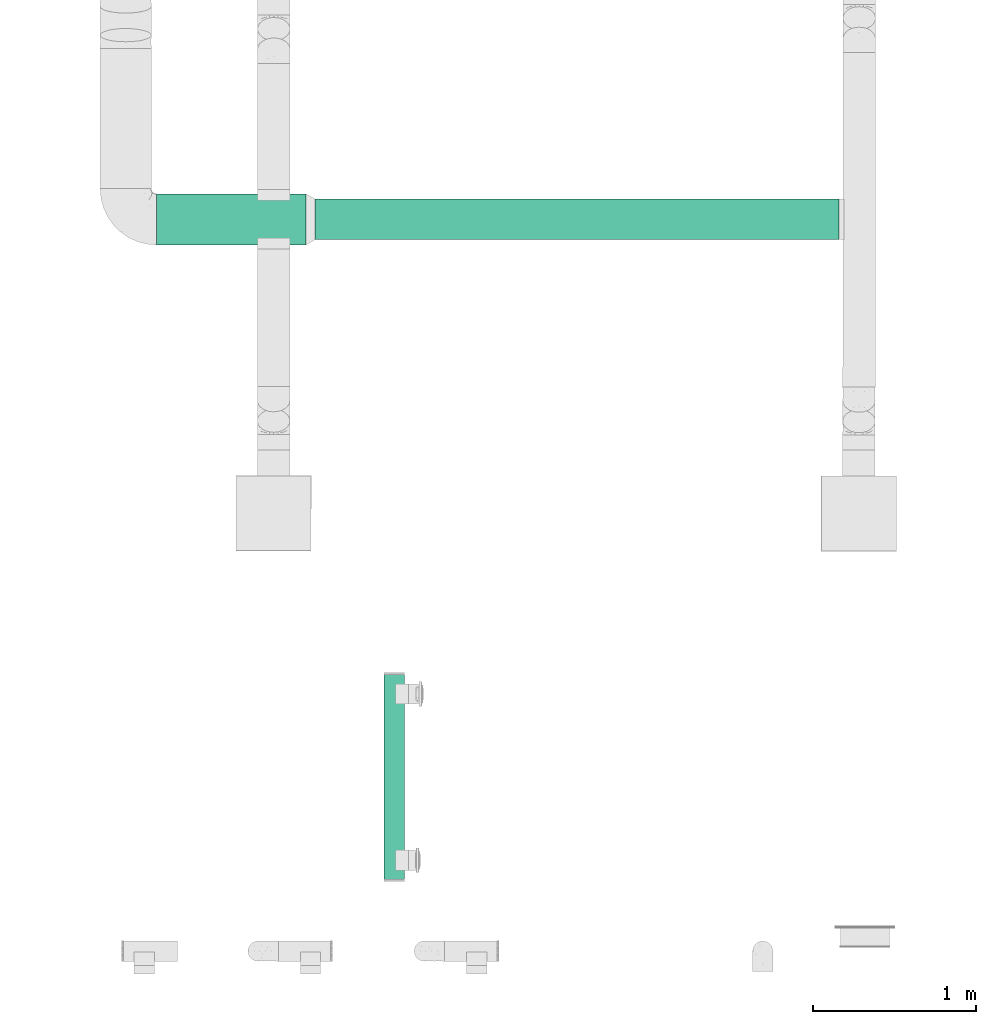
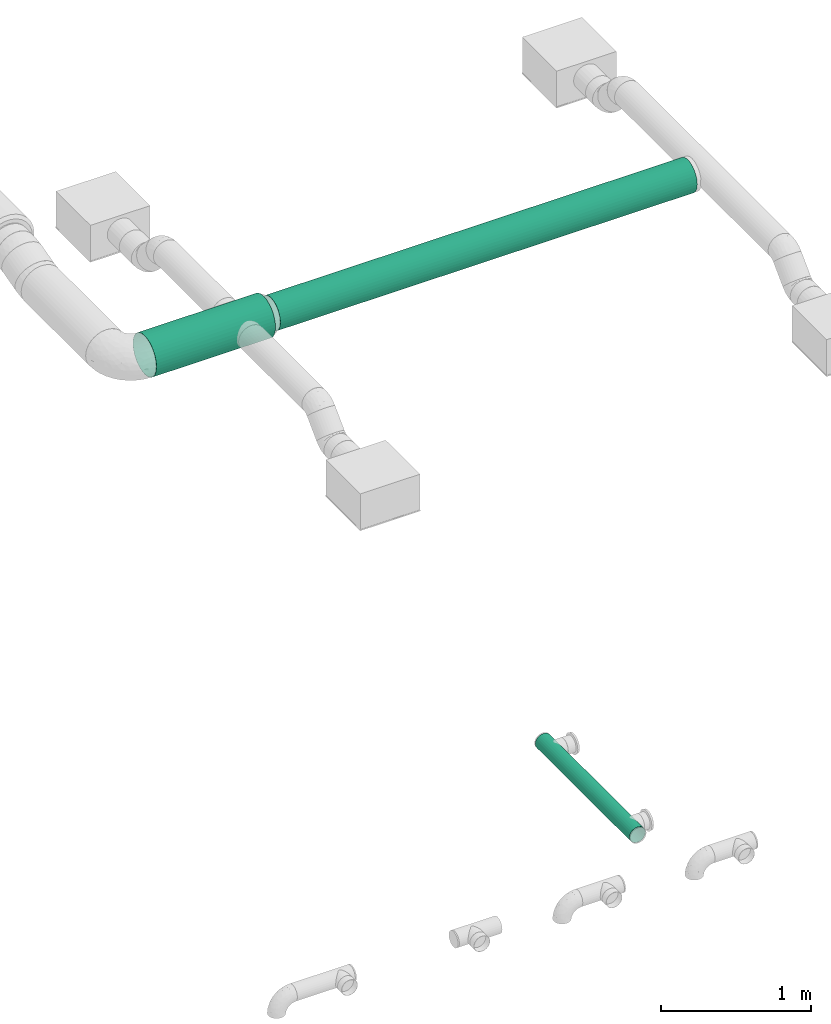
# One storey, part 2 of 63: 3 flow segments.
"""IFC2X3 building model written with IfcOpenShell, lengths in millimetres."""

import ifcopenshell
import ifcopenshell.guid

model = None  # the IFC model being written
_history = None  # IfcOwnerHistory: only IFC2X3 demands one
_inside = {}  # id of a spatial element -> (the spatial element, [elements in it])
_under = {}  # id of a project, library or spatial element -> (it, [spatial elements below it])
_declared = {}  # id of a project -> (the project, [libraries it declares])
_typed = {}  # id of a type object -> (the type object, [elements of that type])
_made_of = {}  # id of a material, layer set ... -> (it, [elements and type objects made of it])


def new_model(schema):
    """Start an empty IFC model of exactly this schema.

    Asked for "IFC4X3", IfcOpenShell would pick the latest addendum, in which some entities
    have other attributes; the version numbers below select the first issue.
    IFC2X3 requires an IfcOwnerHistory on every rooted entity: one is made here for all.
    """
    global model, _history
    if schema == "IFC4X3":
        model = ifcopenshell.file(schema_version=(4, 3, 0, 0))
    else:
        model = ifcopenshell.file(schema=schema)
    _inside.clear()
    _under.clear()
    _declared.clear()
    _typed.clear()
    _made_of.clear()
    _history = None
    if model.schema == "IFC2X3":
        org = make("IfcOrganization", Name="unknown")
        user = make(
            "IfcPersonAndOrganization",
            ThePerson=make("IfcPerson", FamilyName="unknown"),
            TheOrganization=org,
        )
        app = make(
            "IfcApplication",
            ApplicationDeveloper=org,
            Version="unknown",
            ApplicationFullName="unknown",
            ApplicationIdentifier="unknown",
        )
        _history = make(
            "IfcOwnerHistory",
            OwningUser=user,
            OwningApplication=app,
            ChangeAction="ADDED",
            CreationDate=0,
        )
    return model


def make(cls, **values):
    """One entity of the class cls with the attributes given. An attribute that is None is left unset."""
    return model.create_entity(
        cls, **{name: value for name, value in values.items() if value is not None}
    )


def entity(cls, *values):
    """Any entity or typed value of the class cls, its attributes in the order of the schema. None: left unset."""
    e = model.create_entity(cls)
    for i, value in enumerate(values):
        if value is not None:
            e[i] = value
    return e


def rooted(cls, **values):
    """An entity with a GlobalId (a new one), such as an element, a storey or a relation."""
    return make(cls, GlobalId=ifcopenshell.guid.new(), OwnerHistory=_history, **values)


def si_unit(unit_type, name, prefix=None):
    """IfcSIUnit, for example si_unit("LENGTHUNIT", "METRE", prefix="MILLI")."""
    return make("IfcSIUnit", UnitType=unit_type, Prefix=prefix, Name=name)


def converted_unit(unit_type, name, factor, base, dimensions=None, offset=None):
    """IfcConversionBasedUnit, such as the inch: factor (a typed value) times the base unit."""
    return make(
        "IfcConversionBasedUnit"
        if offset is None
        else "IfcConversionBasedUnitWithOffset",
        ConversionOffset=offset,
        Dimensions=None
        if dimensions is None
        else entity("IfcDimensionalExponents", *dimensions),
        UnitType=unit_type,
        Name=name,
        ConversionFactor=make(
            "IfcMeasureWithUnit", ValueComponent=factor, UnitComponent=base
        ),
    )


def derived_unit(unit_type, elements):
    """IfcDerivedUnit: a product of units, each with its exponent."""
    return make(
        "IfcDerivedUnit",
        Elements=[
            make("IfcDerivedUnitElement", Unit=unit, Exponent=power)
            for unit, power in elements
        ],
        UnitType=unit_type,
    )


def assignment(units):
    """IfcUnitAssignment: the units of a project."""
    return None if units is None else make("IfcUnitAssignment", Units=units)


def point(xyz):
    """IfcCartesianPoint."""
    return None if xyz is None else make("IfcCartesianPoint", Coordinates=xyz)


def direction(xyz):
    """IfcDirection."""
    return None if xyz is None else make("IfcDirection", DirectionRatios=xyz)


def frame(location, z_axis=None, x_axis=None):
    """IfcAxis2Placement3D, a coordinate frame: its origin and axes. An axis left out is left unset."""
    return make(
        "IfcAxis2Placement3D",
        Location=point(location),
        Axis=direction(z_axis),
        RefDirection=direction(x_axis),
    )


def frame_2d(location, x_axis=None):
    """IfcAxis2Placement2D, a coordinate frame in the plane: its origin and x axis."""
    return make(
        "IfcAxis2Placement2D", Location=point(location), RefDirection=direction(x_axis)
    )


def origin_with_axes():
    """The frame at (0, 0, 0) with the z axis (0, 0, 1) and the x axis (1, 0, 0) written out."""
    return frame((0.0, 0.0, 0.0), z_axis=(0.0, 0.0, 1.0), x_axis=(1.0, 0.0, 0.0))


def origin_2d_with_axis():
    """The frame at (0, 0) in the plane with the x axis (1, 0) written out."""
    return frame_2d((0.0, 0.0), x_axis=(1.0, 0.0))


def place(relative_to, where):
    """IfcLocalPlacement: puts the frame where relative to a parent placement (None: the world)."""
    return make(
        "IfcLocalPlacement", PlacementRelTo=relative_to, RelativePlacement=where
    )


def context(
    kind, dimensions, precision=None, world=None, true_north=None, identifier=None
):
    """IfcGeometricRepresentationContext, for example the 3D "Model" context."""
    return make(
        "IfcGeometricRepresentationContext",
        ContextIdentifier=identifier,
        ContextType=kind,
        CoordinateSpaceDimension=dimensions,
        Precision=precision,
        WorldCoordinateSystem=world,
        TrueNorth=true_north,
    )


def subcontext(parent, identifier, kind, view, scale=None):
    """IfcGeometricRepresentationSubContext, for example "Body" below "Model"."""
    return make(
        "IfcGeometricRepresentationSubContext",
        ContextIdentifier=identifier,
        ContextType=kind,
        ParentContext=parent,
        TargetScale=scale,
        TargetView=view,
    )


def project(units=None, contexts=None):
    """IfcProject with its units and contexts."""
    return rooted(
        "IfcProject",
        Name="project",
        RepresentationContexts=contexts,
        UnitsInContext=assignment(units),
    )


def spatial(cls, under=None, at=None, **own):
    """A site, building, storey or space (cls), placed at a placement, below another one or the project."""
    s = rooted(cls, ObjectPlacement=at, **own)
    if under is not None:
        _under.setdefault(under.id(), (under, []))[1].append(s)
    return s


def profile(cls, at=None, kind="AREA", **sizes):
    """A parametric profile (cls). Its sizes go by their IFC names, for example OverallWidth=200.0."""
    return make(cls, ProfileType=kind, Position=at, **sizes)


def hollow_circle(**sizes):
    """IfcCircleHollowProfileDef."""
    return profile("IfcCircleHollowProfileDef", **sizes)


def extrude(swept, where, along, depth):
    """IfcExtrudedAreaSolid: the profile swept, set in the frame where, extruded along a direction by depth."""
    return make(
        "IfcExtrudedAreaSolid",
        SweptArea=swept,
        Position=where,
        ExtrudedDirection=direction(along),
        Depth=depth,
    )


def shape(context_of_items, identifier, shape_type, items):
    """IfcShapeRepresentation: the items that make up one representation, for example the "Body"."""
    return make(
        "IfcShapeRepresentation",
        ContextOfItems=context_of_items,
        RepresentationIdentifier=identifier,
        RepresentationType=shape_type,
        Items=items,
    )


def source(mapping_origin, context_of_items, identifier, shape_type, items):
    """IfcRepresentationMap: a shape defined once, which mapped items show again and again."""
    return make(
        "IfcRepresentationMap",
        MappingOrigin=mapping_origin,
        MappedRepresentation=shape(context_of_items, identifier, shape_type, items),
    )


def transform(
    local_origin,
    x_axis=None,
    y_axis=None,
    z_axis=None,
    scale=None,
    scale2=None,
    scale3=None,
    uniform=True,
):
    """IfcCartesianTransformationOperator3D, or its non-uniform kind. x_axis, y_axis, z_axis: its Axis1, 2, 3."""
    if uniform:
        return make(
            "IfcCartesianTransformationOperator3D",
            Axis1=direction(x_axis),
            Axis2=direction(y_axis),
            LocalOrigin=point(local_origin),
            Scale=scale,
            Axis3=direction(z_axis),
        )
    return make(
        "IfcCartesianTransformationOperator3DnonUniform",
        Axis1=direction(x_axis),
        Axis2=direction(y_axis),
        LocalOrigin=point(local_origin),
        Scale=scale,
        Axis3=direction(z_axis),
        Scale2=scale2,
        Scale3=scale3,
    )


def mapped(mapping_source, mapping_target):
    """IfcMappedItem: shows the shape of a source again, moved by a transform."""
    return make(
        "IfcMappedItem", MappingSource=mapping_source, MappingTarget=mapping_target
    )


def made_of(thing, what):
    """Note that an element or type object is made of a material, layer set ...; save() writes the relation."""
    if what is not None:
        _made_of.setdefault(what.id(), (what, []))[1].append(thing)
    return thing


def type_object(cls, material=None, **own):
    """A type object (cls), such as IfcWallType, which elements share."""
    return made_of(rooted(cls, **own), material)


def element(
    cls,
    number,
    at=None,
    inside=None,
    cuts=None,
    type_object=None,
    material=None,
    context=None,
    identifier="Body",
    shape_type=None,
    held_by="IfcProductDefinitionShape",
    body=None,
    shapes=None,
    **own,
):
    """One element of the class cls, such as IfcWall. Its Tag is "e" and its number.

    at: its placement. inside: the storey or other place that contains it. cuts: it is an
    opening in that element (IfcRelVoidsElement). A single representation is given by context,
    identifier, shape_type and body (its items); several are given by shapes. held_by: the class
    of the entity that holds the representations. save() writes the other relations.
    """
    e = rooted(cls, Tag="e%d" % number, ObjectPlacement=at, **own)
    if body is not None:
        shapes = [shape(context, identifier, shape_type, body)]
    if shapes is not None:
        e.Representation = make(held_by, Representations=shapes)
    if inside is not None:
        _inside.setdefault(inside.id(), (inside, []))[1].append(e)
    if cuts is not None:
        rooted(
            "IfcRelVoidsElement", RelatingBuildingElement=cuts, RelatedOpeningElement=e
        )
    if type_object is not None:
        _typed.setdefault(type_object.id(), (type_object, []))[1].append(e)
    return made_of(e, material)


def aggregate(whole, parts):
    """IfcRelAggregates: a whole, such as a stair, and the parts it consists of."""
    return rooted("IfcRelAggregates", RelatingObject=whole, RelatedObjects=parts)


def save(model, path):
    """Write the relations noted so far, then the file.

    IfcRelAggregates (storeys below a building ...), IfcRelContainedInSpatialStructure (elements
    in a storey), IfcRelDefinesByType, IfcRelAssociatesMaterial and IfcRelDeclares: one each for
    every whole, place, type object, material and project.
    """
    for whole, parts in _under.values():
        aggregate(whole, parts)
    for where, things in _inside.values():
        rooted(
            "IfcRelContainedInSpatialStructure",
            RelatedElements=things,
            RelatingStructure=where,
        )
    for kind, things in _typed.values():
        rooted("IfcRelDefinesByType", RelatedObjects=things, RelatingType=kind)
    for what, things in _made_of.values():
        rooted("IfcRelAssociatesMaterial", RelatedObjects=things, RelatingMaterial=what)
    for by, libraries in _declared.values():
        rooted("IfcRelDeclares", RelatingContext=by, RelatedDefinitions=libraries)
    model.write(path)


model = new_model("IFC2X3")

# Units and contexts
model_context = context("Model", 3, precision=0.01, world=frame((0.0, 4.29681676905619e-09, 0.0)), true_north=direction((4.01073788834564e-13, 1.0)))
plan_context = context("Plan", 3, precision=0.01, world=frame((0.0, 4.29681676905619e-09, 0.0)), true_north=direction((4.01073788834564e-13, 1.0)))
body_context = subcontext(model_context, "Body", "Model", "MODEL_VIEW")
ifc_project = project(units=[converted_unit("PLANEANGLEUNIT", "DEGREE", entity("IfcPositiveLengthMeasure", 0.0174532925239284), si_unit("PLANEANGLEUNIT", "RADIAN"), dimensions=[0, 0, 0, 0, 0, 0, 0]), si_unit("AREAUNIT", "SQUARE_METRE"), si_unit("LENGTHUNIT", "METRE", prefix="MILLI"), si_unit("MASSUNIT", "GRAM", prefix="KILO"), si_unit("POWERUNIT", "WATT"), si_unit("PRESSUREUNIT", "PASCAL"), si_unit("FORCEUNIT", "NEWTON", prefix="KILO"), si_unit("ELECTRICVOLTAGEUNIT", "VOLT"), si_unit("ELECTRICCURRENTUNIT", "AMPERE"), si_unit("THERMODYNAMICTEMPERATUREUNIT", "DEGREE_CELSIUS"), si_unit("TIMEUNIT", "SECOND"), si_unit("VOLUMEUNIT", "CUBIC_METRE"), derived_unit("LINEARVELOCITYUNIT", [(si_unit("LENGTHUNIT", "METRE"), 1), (si_unit("TIMEUNIT", "SECOND"), -1)]), derived_unit("VOLUMETRICFLOWRATEUNIT", [(si_unit("VOLUMEUNIT", "CUBIC_METRE"), 1), (si_unit("TIMEUNIT", "SECOND"), -1)]), derived_unit("THERMALTRANSMITTANCEUNIT", [(si_unit("POWERUNIT", "WATT"), 1), (si_unit("THERMODYNAMICTEMPERATUREUNIT", "KELVIN"), -1), (si_unit("AREAUNIT", "SQUARE_METRE"), -1)]), derived_unit("SOUNDPRESSUREUNIT", [(si_unit("PRESSUREUNIT", "PASCAL"), 1)])], contexts=[model_context, plan_context])

# Site, building, storey
site_placement = place(None, frame((0.0, -4.29681676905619e-09, 0.0), z_axis=(0.0, 0.0, 1.0), x_axis=(1.0, 0.0, 0.0)))
site = spatial("IfcSite", under=ifc_project, at=site_placement, CompositionType="ELEMENT")
building_placement = place(site_placement, frame((0.0, 4.29681676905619e-09, 0.0), z_axis=(0.0, 0.0, 1.0), x_axis=(1.0, 0.0, 0.0)))
building = spatial("IfcBuilding", under=site, at=building_placement, Name="mc-building", CompositionType="ELEMENT")
storey_placement = place(building_placement, frame((0.0, 0.0, 210900.0), z_axis=(0.0, 0.0, 1.0), x_axis=(1.0, 0.0, 0.0)))
storey = spatial("IfcBuildingStorey", under=building, at=storey_placement, Name="Nivå F", CompositionType="ELEMENT", Elevation=210900.0)

# Flow segments
duct_segment_type_1 = type_object("IfcDuctSegmentType", Name="KK001T - Spiro kanaler, Forsinket stål", PredefinedType="RIGIDSEGMENT")
shared_shape_1 = source(origin_with_axes(), body_context, "Body", "SweptSolid", [
    extrude(hollow_circle(Radius=62.5, WallThickness=2.0, at=origin_2d_with_axis()), frame((0.0, 0.0, 0.0), z_axis=(1.0, 0.0, 0.0), x_axis=(0.0, 1.0, 0.0)), (0.0, 0.0, 1.0), 1260.0),
])
flow_segment_1_placement = place(storey_placement, frame((531246.40768, 441333.33664, 2163.0), z_axis=(0.0, 0.0, 1.0), x_axis=(0.0, 1.0, 0.0)))
element("IfcFlowSegment", 1, at=flow_segment_1_placement, inside=storey, type_object=duct_segment_type_1, Name="KK001T - Spiro kanaler, Forsinket stål", context=body_context, shape_type="MappedRepresentation", body=[
    mapped(shared_shape_1, transform((0.0, 0.0, 0.0), scale=1.0)),
])
duct_segment_type_2 = type_object("IfcDuctSegmentType", Name="KK002T - Spiro kanaler, Forsinket stål, korte bend", PredefinedType="RIGIDSEGMENT")
shared_shape_2 = source(origin_with_axes(), body_context, "Body", "SweptSolid", [
    extrude(hollow_circle(Radius=125.0, WallThickness=2.0, at=origin_2d_with_axis()), frame((0.0, 0.0, 0.0), z_axis=(1.0, 0.0, 0.0), x_axis=(0.0, 1.0, 0.0)), (0.0, 0.0, 1.0), 3220.0),
])
flow_segment_2_placement = place(storey_placement, frame((533979.74383, 445392.76929, 4131.19871999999), z_axis=(0.0, 0.0, 1.0), x_axis=(-1.0, 0.0, 0.0)))
element("IfcFlowSegment", 2, at=flow_segment_2_placement, inside=storey, type_object=duct_segment_type_2, Name="KK002T - Spiro kanaler, Forsinket stål, korte bend", context=body_context, shape_type="MappedRepresentation", body=[
    mapped(shared_shape_2, transform((0.0, 0.0, 0.0), scale=1.0)),
])
shared_shape_3 = source(origin_with_axes(), body_context, "Body", "SweptSolid", [
    extrude(hollow_circle(Radius=157.5, WallThickness=2.0, at=origin_2d_with_axis()), frame((0.0, 0.0, 0.0), z_axis=(1.0, 0.0, 0.0), x_axis=(0.0, 1.0, 0.0)), (0.0, 0.0, 1.0), 919.7),
])
flow_segment_3_placement = place(storey_placement, frame((529783.70329, 445392.76929, 4131.19871999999), z_axis=(0.0, 0.0, 1.0), x_axis=(1.0, 0.0, 0.0)))
element("IfcFlowSegment", 3, at=flow_segment_3_placement, inside=storey, type_object=duct_segment_type_2, Name="KK002T - Spiro kanaler, Forsinket stål, korte bend", context=body_context, shape_type="MappedRepresentation", body=[
    mapped(shared_shape_3, transform((0.0, 0.0, 0.0), scale=1.0)),
])

save(model, "model.ifc")
